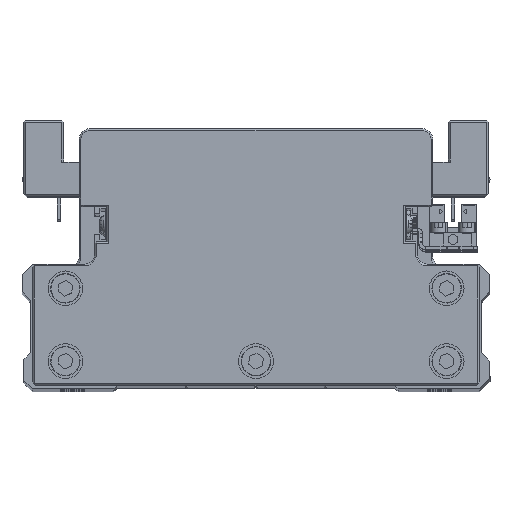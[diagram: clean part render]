
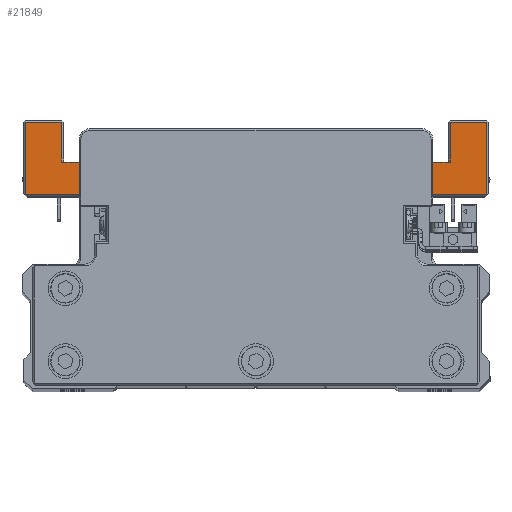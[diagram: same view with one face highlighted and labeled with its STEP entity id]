
A CAD part, top view. The second image highlights one B-rep face of the part: STEP entity #21849.
In plain terms, the highlighted planar face has unit normal (0, 0, 1) as drawn and (0, -1, 0) by its records, which use the part's own axes.
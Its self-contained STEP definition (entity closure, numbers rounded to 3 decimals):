
#448 = EDGE_CURVE ( 'NONE', #13470, #5880, #19417, .T. ) ;
#516 = CARTESIAN_POINT ( 'NONE',  ( -66., -45., -43. ) ) ;
#564 = CARTESIAN_POINT ( 'NONE',  ( -66.5, -45., -64. ) ) ;
#635 = DIRECTION ( 'NONE',  ( 0., 1., 0. ) ) ;
#689 = VERTEX_POINT ( 'NONE', #6093 ) ;
#1027 = LINE ( 'NONE', #13156, #10444 ) ;
#1063 = DIRECTION ( 'NONE',  ( 0., 0., -1. ) ) ;
#1220 = CARTESIAN_POINT ( 'NONE',  ( -46., -45., -52.5 ) ) ;
#1383 = VERTEX_POINT ( 'NONE', #4962 ) ;
#1491 = EDGE_CURVE ( 'NONE', #20769, #12485, #2752, .T. ) ;
#1965 = LINE ( 'NONE', #14089, #15687 ) ;
#2120 = CARTESIAN_POINT ( 'NONE',  ( -77.786, -45., -42.5 ) ) ;
#2462 = CARTESIAN_POINT ( 'NONE',  ( 46., -45., -52.5 ) ) ;
#2752 = LINE ( 'NONE', #14869, #3091 ) ;
#2958 = ORIENTED_EDGE ( 'NONE', *, *, #23612, .T. ) ;
#3091 = VECTOR ( 'NONE', #26993, 1000. ) ;
#3754 = CIRCLE ( 'NONE', #25944, 1.5 ) ;
#4315 = DIRECTION ( 'NONE',  ( 1., 0., 0. ) ) ;
#4333 = CARTESIAN_POINT ( 'NONE',  ( 66.5, -45., -43. ) ) ;
#4778 = CIRCLE ( 'NONE', #26972, 1.5 ) ;
#4962 = CARTESIAN_POINT ( 'NONE',  ( -66.5, -45., -43. ) ) ;
#5367 = DIRECTION ( 'NONE',  ( 0., 0., -1. ) ) ;
#5880 = VERTEX_POINT ( 'NONE', #28977 ) ;
#6093 = CARTESIAN_POINT ( 'NONE',  ( -40.066, -45., -43. ) ) ;
#6638 = VECTOR ( 'NONE', #12653, 1000. ) ;
#6759 = EDGE_CURVE ( 'NONE', #12485, #32504, #16165, .T. ) ;
#7011 = EDGE_CURVE ( 'NONE', #10453, #25521, #4778, .T. ) ;
#7358 = DIRECTION ( 'NONE',  ( 0., 0., -1. ) ) ;
#7463 = VECTOR ( 'NONE', #20016, 1000. ) ;
#7469 = LINE ( 'NONE', #19580, #34852 ) ;
#7786 = AXIS2_PLACEMENT_3D ( 'NONE', #20451, #32581, #5367 ) ;
#7899 = CARTESIAN_POINT ( 'NONE',  ( 66.5, -45., -43.5 ) ) ;
#8047 = CARTESIAN_POINT ( 'NONE',  ( -39.868, -45., -42.987 ) ) ;
#8344 = PLANE ( 'NONE',  #7786 ) ;
#8614 = CARTESIAN_POINT ( 'NONE',  ( 67., -45., -64. ) ) ;
#9287 = DIRECTION ( 'NONE',  ( 1., 0., 0. ) ) ;
#9690 = ORIENTED_EDGE ( 'NONE', *, *, #7011, .T. ) ;
#9754 = DIRECTION ( 'NONE',  ( -0.991, 0., 0.132 ) ) ;
#9966 = VECTOR ( 'NONE', #11961, 1000. ) ;
#10028 = VERTEX_POINT ( 'NONE', #37867 ) ;
#10444 = VECTOR ( 'NONE', #25262, 1000. ) ;
#10453 = VERTEX_POINT ( 'NONE', #22680 ) ;
#10697 = ORIENTED_EDGE ( 'NONE', *, *, #31165, .T. ) ;
#11393 = ORIENTED_EDGE ( 'NONE', *, *, #19994, .T. ) ;
#11782 = DIRECTION ( 'NONE',  ( 0., 0., -1. ) ) ;
#11800 = CARTESIAN_POINT ( 'NONE',  ( 40.066, -45., -41.5 ) ) ;
#11961 = DIRECTION ( 'NONE',  ( -1., 0., 0. ) ) ;
#12083 = EDGE_CURVE ( 'NONE', #1383, #13470, #22441, .T. ) ;
#12227 = ORIENTED_EDGE ( 'NONE', *, *, #20161, .F. ) ;
#12426 = VERTEX_POINT ( 'NONE', #8047 ) ;
#12485 = VERTEX_POINT ( 'NONE', #2462 ) ;
#12653 = DIRECTION ( 'NONE',  ( -1., 0., 0. ) ) ;
#12732 = ORIENTED_EDGE ( 'NONE', *, *, #20322, .T. ) ;
#12768 = DIRECTION ( 'NONE',  ( 0., 0., -1. ) ) ;
#13156 = CARTESIAN_POINT ( 'NONE',  ( -39.868, -45., -42.987 ) ) ;
#13353 = DIRECTION ( 'NONE',  ( 0., 0., 1. ) ) ;
#13470 = VERTEX_POINT ( 'NONE', #564 ) ;
#14089 = CARTESIAN_POINT ( 'NONE',  ( -56., -45., -52.5 ) ) ;
#14132 = EDGE_CURVE ( 'NONE', #22163, #10453, #7469, .T. ) ;
#14242 = DIRECTION ( 'NONE',  ( -1., 0., 0. ) ) ;
#14700 = ORIENTED_EDGE ( 'NONE', *, *, #448, .T. ) ;
#14739 = EDGE_LOOP ( 'NONE', ( #10697, #28180, #20496, #2958, #21065, #14700, #16280, #12227, #37937, #11393, #25358, #30569, #22456, #20414, #38279, #27245, #9690, #12732 ) ) ;
#14869 = CARTESIAN_POINT ( 'NONE',  ( 55.5, -45., -52.5 ) ) ;
#15687 = VECTOR ( 'NONE', #26206, 1000. ) ;
#16165 = LINE ( 'NONE', #28292, #31400 ) ;
#16280 = ORIENTED_EDGE ( 'NONE', *, *, #20474, .T. ) ;
#16313 = VECTOR ( 'NONE', #9754, 1000. ) ;
#16414 = EDGE_CURVE ( 'NONE', #23539, #27650, #28453, .T. ) ;
#17644 = EDGE_CURVE ( 'NONE', #20769, #23207, #26851, .T. ) ;
#17963 = CARTESIAN_POINT ( 'NONE',  ( 46., -45., -54. ) ) ;
#19417 = LINE ( 'NONE', #31535, #28882 ) ;
#19508 = CARTESIAN_POINT ( 'NONE',  ( 39.868, -45., -42.987 ) ) ;
#19580 = CARTESIAN_POINT ( 'NONE',  ( 40.066, -45., -43. ) ) ;
#19994 = EDGE_CURVE ( 'NONE', #23539, #32504, #24367, .T. ) ;
#20016 = DIRECTION ( 'NONE',  ( 0., 0., 1. ) ) ;
#20161 = EDGE_CURVE ( 'NONE', #27650, #20251, #27052, .T. ) ;
#20251 = VERTEX_POINT ( 'NONE', #36815 ) ;
#20322 = EDGE_CURVE ( 'NONE', #25521, #10028, #24849, .T. ) ;
#20414 = ORIENTED_EDGE ( 'NONE', *, *, #35518, .T. ) ;
#20451 = CARTESIAN_POINT ( 'NONE',  ( 0., -45., 0. ) ) ;
#20474 = EDGE_CURVE ( 'NONE', #5880, #20251, #1965, .T. ) ;
#20496 = ORIENTED_EDGE ( 'NONE', *, *, #35697, .T. ) ;
#20716 = DIRECTION ( 'NONE',  ( 1., 0., 0. ) ) ;
#20769 = VERTEX_POINT ( 'NONE', #24796 ) ;
#20915 = EDGE_CURVE ( 'NONE', #26996, #22163, #35124, .T. ) ;
#21065 = ORIENTED_EDGE ( 'NONE', *, *, #12083, .T. ) ;
#21849 = ADVANCED_FACE ( 'NONE', ( #35591 ), #8344, .T. ) ;
#22163 = VERTEX_POINT ( 'NONE', #4333 ) ;
#22441 = LINE ( 'NONE', #34584, #38024 ) ;
#22456 = ORIENTED_EDGE ( 'NONE', *, *, #17644, .T. ) ;
#22680 = CARTESIAN_POINT ( 'NONE',  ( 40.066, -45., -43. ) ) ;
#23207 = VERTEX_POINT ( 'NONE', #26079 ) ;
#23539 = VERTEX_POINT ( 'NONE', #25248 ) ;
#23612 = EDGE_CURVE ( 'NONE', #689, #1383, #27743, .T. ) ;
#23766 = VECTOR ( 'NONE', #11782, 1000. ) ;
#23901 = DIRECTION ( 'NONE',  ( 0., 1., 0. ) ) ;
#24367 = LINE ( 'NONE', #36536, #32803 ) ;
#24796 = CARTESIAN_POINT ( 'NONE',  ( 56., -45., -52.5 ) ) ;
#24849 = LINE ( 'NONE', #36998, #16313 ) ;
#25248 = CARTESIAN_POINT ( 'NONE',  ( -46., -45., -54. ) ) ;
#25262 = DIRECTION ( 'NONE',  ( -0.991, 0., -0.132 ) ) ;
#25358 = ORIENTED_EDGE ( 'NONE', *, *, #6759, .F. ) ;
#25509 = EDGE_CURVE ( 'NONE', #30980, #12426, #1027, .T. ) ;
#25521 = VERTEX_POINT ( 'NONE', #19508 ) ;
#25944 = AXIS2_PLACEMENT_3D ( 'NONE', #27844, #635, #12768 ) ;
#26079 = CARTESIAN_POINT ( 'NONE',  ( 56., -45., -64. ) ) ;
#26206 = DIRECTION ( 'NONE',  ( 0., 0., 1. ) ) ;
#26581 = VECTOR ( 'NONE', #20716, 1000. ) ;
#26851 = LINE ( 'NONE', #39018, #23766 ) ;
#26972 = AXIS2_PLACEMENT_3D ( 'NONE', #11800, #23901, #36048 ) ;
#26993 = DIRECTION ( 'NONE',  ( -1., 0., 0. ) ) ;
#26996 = VERTEX_POINT ( 'NONE', #32272 ) ;
#27052 = LINE ( 'NONE', #39210, #9966 ) ;
#27245 = ORIENTED_EDGE ( 'NONE', *, *, #14132, .T. ) ;
#27650 = VERTEX_POINT ( 'NONE', #30756 ) ;
#27743 = LINE ( 'NONE', #516, #6638 ) ;
#27844 = CARTESIAN_POINT ( 'NONE',  ( -40.066, -45., -41.5 ) ) ;
#28180 = ORIENTED_EDGE ( 'NONE', *, *, #25509, .T. ) ;
#28292 = CARTESIAN_POINT ( 'NONE',  ( 46., -45., -52.5 ) ) ;
#28453 = LINE ( 'NONE', #1220, #32691 ) ;
#28882 = VECTOR ( 'NONE', #4315, 1000. ) ;
#28977 = CARTESIAN_POINT ( 'NONE',  ( -56., -45., -64. ) ) ;
#29346 = LINE ( 'NONE', #2120, #32016 ) ;
#30569 = ORIENTED_EDGE ( 'NONE', *, *, #1491, .F. ) ;
#30756 = CARTESIAN_POINT ( 'NONE',  ( -46., -45., -52.5 ) ) ;
#30980 = VERTEX_POINT ( 'NONE', #31159 ) ;
#31159 = CARTESIAN_POINT ( 'NONE',  ( -36.217, -45., -42.5 ) ) ;
#31165 = EDGE_CURVE ( 'NONE', #10028, #30980, #29346, .T. ) ;
#31400 = VECTOR ( 'NONE', #1063, 1000. ) ;
#31535 = CARTESIAN_POINT ( 'NONE',  ( -55.5, -45., -64. ) ) ;
#31706 = DIRECTION ( 'NONE',  ( -1., 0., 0. ) ) ;
#32016 = VECTOR ( 'NONE', #14242, 1000. ) ;
#32272 = CARTESIAN_POINT ( 'NONE',  ( 66.5, -45., -64. ) ) ;
#32504 = VERTEX_POINT ( 'NONE', #17963 ) ;
#32581 = DIRECTION ( 'NONE',  ( 0., -1., 0. ) ) ;
#32691 = VECTOR ( 'NONE', #13353, 1000. ) ;
#32803 = VECTOR ( 'NONE', #9287, 1000. ) ;
#34584 = CARTESIAN_POINT ( 'NONE',  ( -66.5, -45., -64.5 ) ) ;
#34852 = VECTOR ( 'NONE', #31706, 1000. ) ;
#35124 = LINE ( 'NONE', #7899, #7463 ) ;
#35518 = EDGE_CURVE ( 'NONE', #23207, #26996, #35853, .T. ) ;
#35591 = FACE_OUTER_BOUND ( 'NONE', #14739, .T. ) ;
#35697 = EDGE_CURVE ( 'NONE', #12426, #689, #3754, .T. ) ;
#35853 = LINE ( 'NONE', #8614, #26581 ) ;
#36048 = DIRECTION ( 'NONE',  ( 0., 0., -1. ) ) ;
#36536 = CARTESIAN_POINT ( 'NONE',  ( 46., -45., -54. ) ) ;
#36815 = CARTESIAN_POINT ( 'NONE',  ( -56., -45., -52.5 ) ) ;
#36998 = CARTESIAN_POINT ( 'NONE',  ( 25.802, -45., -41.111 ) ) ;
#37867 = CARTESIAN_POINT ( 'NONE',  ( 36.217, -45., -42.5 ) ) ;
#37937 = ORIENTED_EDGE ( 'NONE', *, *, #16414, .F. ) ;
#38024 = VECTOR ( 'NONE', #7358, 1000. ) ;
#38279 = ORIENTED_EDGE ( 'NONE', *, *, #20915, .T. ) ;
#39018 = CARTESIAN_POINT ( 'NONE',  ( 56., -45., -64.5 ) ) ;
#39210 = CARTESIAN_POINT ( 'NONE',  ( -55.5, -45., -52.5 ) ) ;
